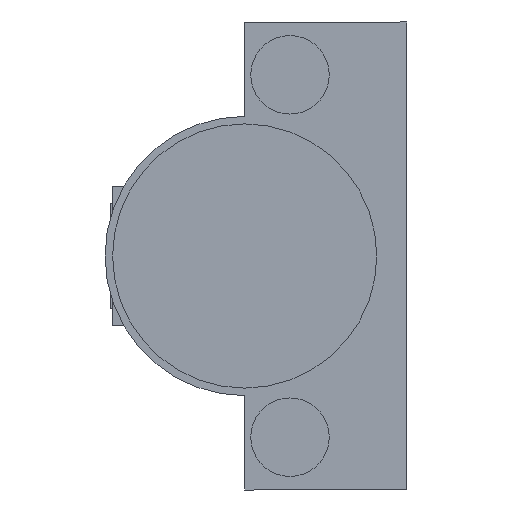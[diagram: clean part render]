
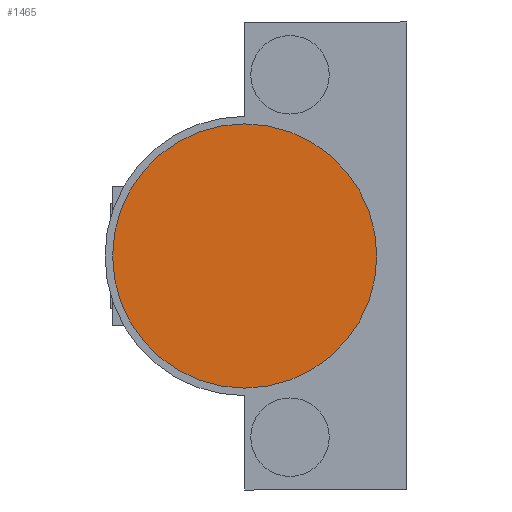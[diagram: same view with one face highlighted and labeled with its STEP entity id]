
A CAD part, front view. The second image highlights one B-rep face of the part: STEP entity #1465.
In plain terms, the highlighted planar face has unit normal (0, -1, 0).
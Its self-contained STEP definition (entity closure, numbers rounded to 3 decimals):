
#70 = AXIS2_PLACEMENT_3D ( 'NONE', #819, #822, #823 ) ;
#116 = EDGE_CURVE ( 'NONE', #287, #267, #1683, .T. ) ;
#139 = AXIS2_PLACEMENT_3D ( 'NONE', #656, #671, #672 ) ;
#243 = EDGE_CURVE ( 'NONE', #267, #287, #1028, .T. ) ;
#249 = AXIS2_PLACEMENT_3D ( 'NONE', #497, #498, #499 ) ;
#267 = VERTEX_POINT ( 'NONE', #689 ) ;
#287 = VERTEX_POINT ( 'NONE', #709 ) ;
#497 = CARTESIAN_POINT ( 'NONE',  ( 21.5, -12.6, 0. ) ) ;
#498 = DIRECTION ( 'NONE',  ( 0., -1., 0. ) ) ;
#499 = DIRECTION ( 'NONE',  ( 1., 0., 0. ) ) ;
#656 = CARTESIAN_POINT ( 'NONE',  ( 21.5, -12.6, 0. ) ) ;
#671 = DIRECTION ( 'NONE',  ( 0., -1., 0. ) ) ;
#672 = DIRECTION ( 'NONE',  ( 1., 0., 0. ) ) ;
#689 = CARTESIAN_POINT ( 'NONE',  ( 39., -12.6, 0. ) ) ;
#709 = CARTESIAN_POINT ( 'NONE',  ( 4., -12.6, 0. ) ) ;
#819 = CARTESIAN_POINT ( 'NONE',  ( 21.5, -12.6, 0. ) ) ;
#820 = PLANE ( 'NONE',  #70 ) ;
#822 = DIRECTION ( 'NONE',  ( 0., -1., 0. ) ) ;
#823 = DIRECTION ( 'NONE',  ( 1., 0., 0. ) ) ;
#1028 = CIRCLE ( 'NONE', #139, 17.5 ) ;
#1051 = FACE_OUTER_BOUND ( 'NONE', #1166, .T. ) ;
#1166 = EDGE_LOOP ( 'NONE', ( #1366, #1367 ) ) ;
#1366 = ORIENTED_EDGE ( 'NONE', *, *, #116, .T. ) ;
#1367 = ORIENTED_EDGE ( 'NONE', *, *, #243, .T. ) ;
#1465 = ADVANCED_FACE ( 'NONE', ( #1051 ), #820, .T. ) ;
#1683 = CIRCLE ( 'NONE', #249, 17.5 ) ;
